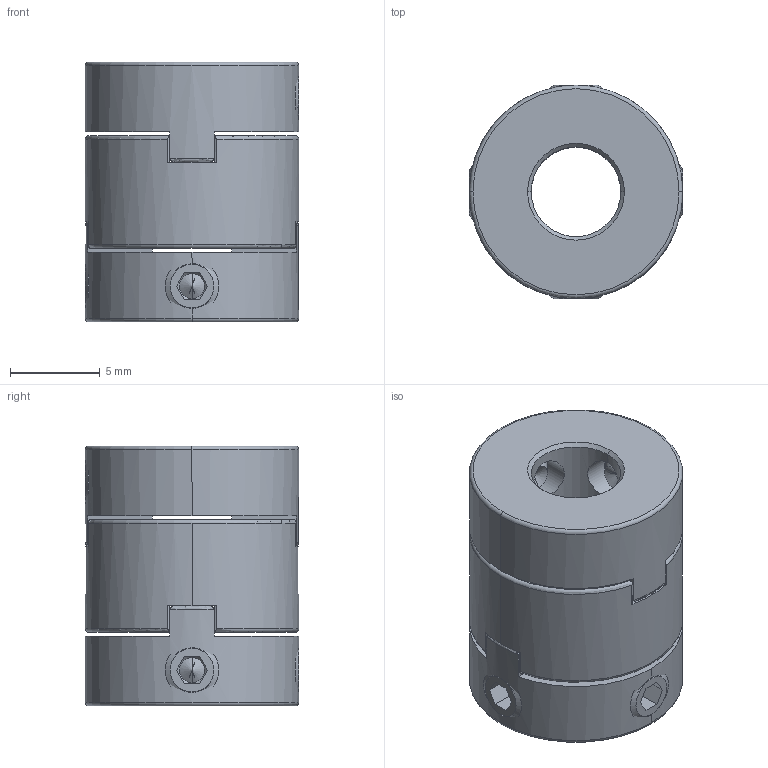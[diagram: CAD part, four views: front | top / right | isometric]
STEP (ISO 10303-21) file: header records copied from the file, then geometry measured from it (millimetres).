
FILE_DESCRIPTION (( 'STEP AP214' ), '1' );
FILE_NAME ('SOH-12 ASS''Y.STEP', '2016-02-05T05:28:08', ( '' ), ( '' ), 'SwSTEP 2.0', 'SolidWorks 2015', '' );
FILE_SCHEMA (( 'AUTOMOTIVE_DESIGN' ));
Length unit declared in the file: millimetre
Products named in the file (1): SOH-12 ASS''Y
Bounding box: 11.9 x 11.9 x 14.5 mm (x, y, z)
Surface area: 1420.9 mm2 (no closed solid volume)
Topology: 0 solids, 7 shells, 135 faces, 382 edges, 245 vertices
Faces by surface type: plane 58, cylinder 36, cone 28, torus 13
Entity records: 6120 total; most frequent: CARTESIAN_POINT 1265, DIRECTION 700, ORIENTED_EDGE 640, EDGE_CURVE 374, AXIS2_PLACEMENT_3D 248, VERTEX_POINT 245, VECTOR 204, LINE 204
